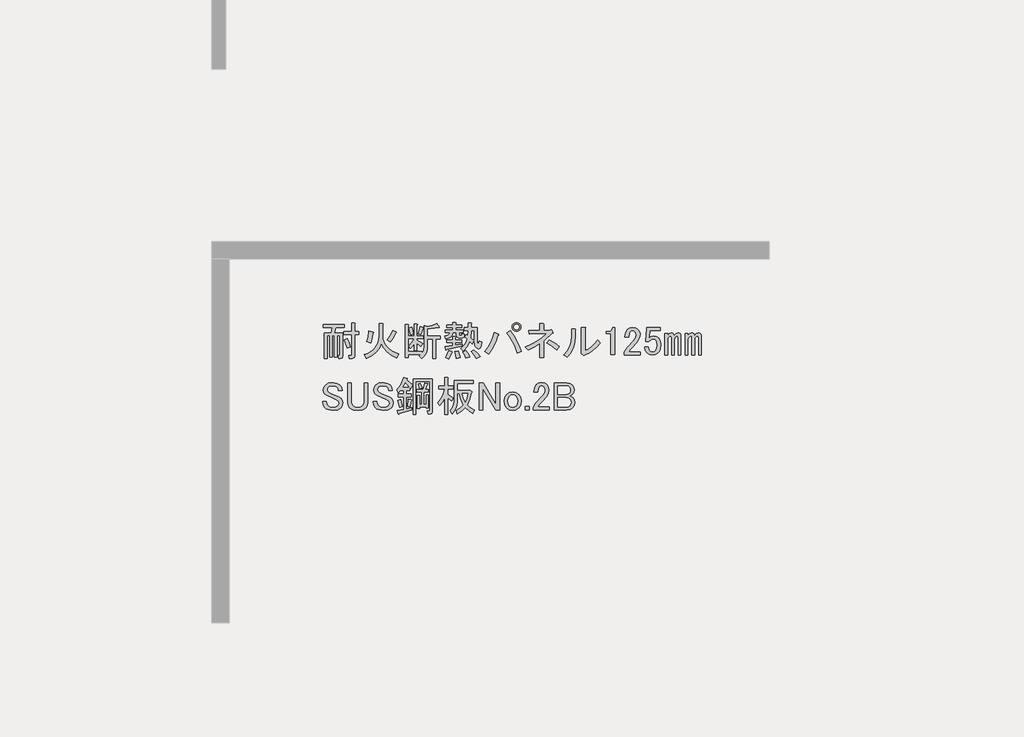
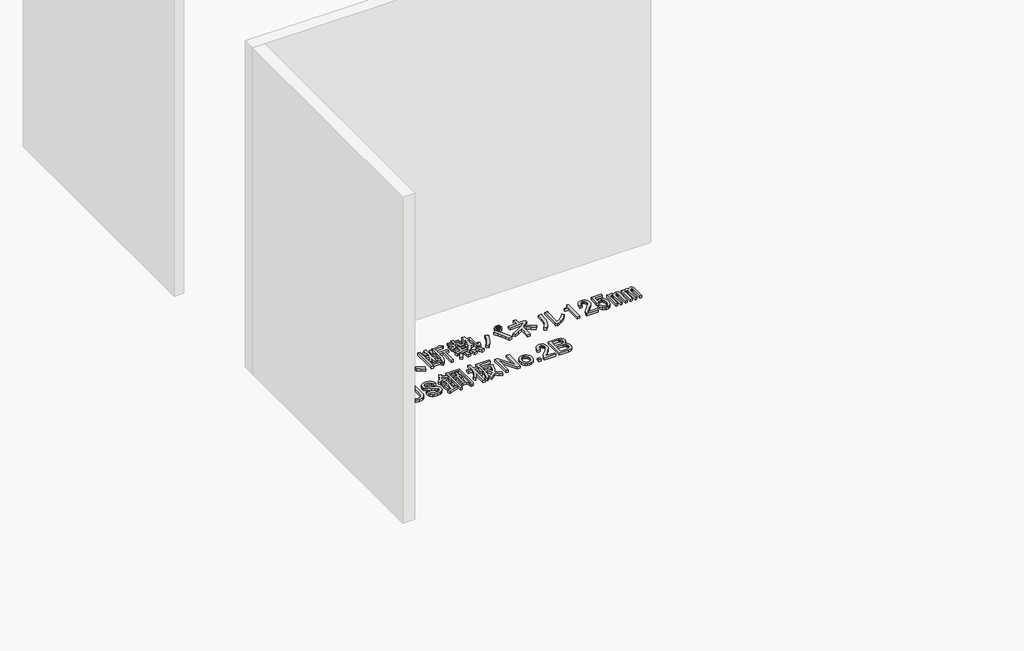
# One storey, part 113 of 117: 1 proxy.
"""IFC4 building model written with IfcOpenShell, lengths in millimetres."""

from ifc_helpers import new_model, si_unit, frame, origin, place, context, project, spatial, polyline, outline, extrude, element, save

model = new_model("IFC4")

# Units and contexts
model_context = context("Model", 3, world=origin())
ifc_project = project(units=[si_unit("LENGTHUNIT", "METRE", prefix="MILLI")], contexts=[model_context])

# Site, building, storey
site = spatial("IfcSite", under=ifc_project)
building = spatial("IfcBuilding", under=site)
storey = spatial("IfcBuildingStorey", under=building, Name="レベル 1", Elevation=500.0)

# Proxy
placement = place(None, origin())
element("IfcBuildingElementProxy", 1, Name="200㎜\u3000MS Pゴシック", ObjectType="200㎜\u3000MS Pゴシック", at=placement, inside=storey, context=model_context, shape_type="SweptSolid", body=[
    extrude(outline(polyline([(64978.5674486, 7229.3142262), (64971.0959694, 7259.7748726), (64960.176115, 7289.0860605), (64982.0158237, 7297.132269), (64994.372501, 7267.5337164), (65001.5566157, 7238.5098931), (64978.5674486, 7229.3142262)])), frame((0.0, 0.0, 500.0), z_axis=(0.0, 0.0, 1.0), x_axis=(1.0, 0.0, 0.0)), (0.0, 0.0, 1.0), 25.0),
    extrude(outline(polyline([(64887.7602388, 7320.121436), (64871.6678219, 7320.121436), (64871.6678219, 7164.9445585), (64852.1270299, 7164.9445585), (64852.1270299, 7320.121436), (64833.7356963, 7320.121436), (64833.7356963, 7152.3005167), (64814.1949043, 7152.3005167), (64814.1949043, 7338.5127697), (64865.9205301, 7338.5127697), (64871.6678219, 7377.5943537), (64804.9992375, 7377.5943537), (64804.9992375, 7399.4340623), (64960.176115, 7399.4340623), (64960.176115, 7377.5943537), (64895.8064473, 7377.5943537), (64885.4613221, 7338.5127697), (64946.3826148, 7338.5127697), (64946.3826148, 7170.6918503), (64942.3595106, 7158.6225376), (64930.2901979, 7154.5994334), (64919.9450727, 7154.5994334), (64915.3472393, 7176.439142), (64922.2439894, 7176.439142), (64925.6923645, 7177.5886004), (64926.8418228, 7181.0369755), (64926.8418228, 7320.121436), (64907.3010308, 7320.121436), (64907.3010308, 7164.9445585), (64887.7602388, 7164.9445585), (64887.7602388, 7320.121436)])), frame((0.0, 0.0, 500.0), z_axis=(0.0, 0.0, 1.0), x_axis=(1.0, 0.0, 0.0)), (0.0, 0.0, 1.0), 25.0),
    extrude(outline(polyline([(64956.72774, 7325.8687278), (64956.72774, 7347.7084365), (65013.0511992, 7347.7084365), (65013.0511992, 7409.7791875), (65034.8909079, 7409.7791875), (65039.7761059, 7407.4802708), (65036.0403663, 7402.8824374), (65036.0403663, 7347.7084365), (65064.7768251, 7347.7084365), (65064.7768251, 7325.8687278), (65036.0403663, 7325.8687278), (65036.0403663, 7172.990767), (65031.4425328, 7159.1972668), (65017.6490326, 7154.5994334), (64994.6598656, 7154.5994334), (64991.2114905, 7176.439142), (65008.4533658, 7176.439142), (65011.9017409, 7177.5886004), (65013.0511992, 7181.0369755), (65013.0511992, 7325.8687278), (64956.72774, 7325.8687278)])), frame((0.0, 0.0, 500.0), z_axis=(0.0, 0.0, 1.0), x_axis=(1.0, 0.0, 0.0)), (0.0, 0.0, 1.0), 25.0),
    extrude(outline(polyline([(65226.8504527, 7261.4990601), (65210.9017181, 7226.6561038), (65187.1941395, 7196.8420278), (65155.7277172, 7172.0568321), (65116.5024509, 7152.3005167), (65102.7089507, 7181.0369755), (65128.032955, 7190.71757), (65149.9804254, 7202.5174784), (65168.5513619, 7216.4367006), (65183.7457645, 7232.4752367), (65195.5636332, 7250.6330866), (65204.0049679, 7270.9102504), (65209.0697688, 7293.3067279), (65210.7580358, 7317.8225193), (65210.7580358, 7408.6297292), (65237.1955779, 7406.3308125), (65240.6439529, 7402.8824374), (65237.1955779, 7397.1351456), (65237.1955779, 7317.8225193), (65238.9916065, 7296.377937), (65244.3796926, 7276.2983364), (65253.3598359, 7257.5837176), (65265.9320367, 7240.2340806), (65282.0962947, 7224.2494254), (65301.8526102, 7209.629752), (65352.1414131, 7184.4853505), (65340.6468295, 7155.7488917), (65301.2060398, 7175.2896837), (65269.0930471, 7199.4283091), (65244.3078514, 7228.1647679), (65226.8504527, 7261.4990601)])), frame((0.0, 0.0, 500.0), z_axis=(0.0, 0.0, 1.0), x_axis=(1.0, 0.0, 0.0)), (0.0, 0.0, 1.0), 25.0),
    extrude(outline(polyline([(65330.3017044, 7337.3633113), (65310.1861832, 7297.9943628), (65293.5190371, 7271.8441853), (65270.5298701, 7286.7871438), (65290.3580266, 7318.3972485), (65308.4619957, 7358.0535617), (65333.7500794, 7345.4095198), (65336.3363607, 7341.6737801), (65330.3017044, 7337.3633113)])), frame((0.0, 0.0, 500.0), z_axis=(0.0, 0.0, 1.0), x_axis=(1.0, 0.0, 0.0)), (0.0, 0.0, 1.0), 25.0),
    extrude(outline(polyline([(65122.2497427, 7276.4420187), (65134.0316908, 7310.6384046), (65137.1927012, 7353.4557283), (65165.92916, 7346.5589781), (65170.5269934, 7342.8232385), (65165.92916, 7338.5127697), (65162.1934204, 7304.0290191), (65150.9862015, 7267.2463519), (65122.2497427, 7276.4420187)])), frame((0.0, 0.0, 500.0), z_axis=(0.0, 0.0, 1.0), x_axis=(1.0, 0.0, 0.0)), (0.0, 0.0, 1.0), 25.0),
    extrude(outline(polyline([(65647.5522095, 7381.0427287), (65645.828022, 7376.4448953), (65638.3565427, 7378.743812), (65561.3428331, 7366.0997701), (65561.3428331, 7316.673061), (65653.2995013, 7316.673061), (65653.2995013, 7294.8333523), (65622.2641258, 7294.8333523), (65622.2641258, 7154.5994334), (65599.2749588, 7154.5994334), (65599.2749588, 7294.8333523), (65561.3428331, 7294.8333523), (65561.3428331, 7245.4066432), (65558.7565518, 7217.6041193), (65550.997708, 7192.8189236), (65538.0663015, 7171.051056), (65519.9623325, 7152.3005167), (65502.7204572, 7171.8413086), (65513.0655823, 7181.0369755), (65423.4078309, 7181.0369755), (65423.4078309, 7159.1972668), (65400.4186638, 7159.1972668), (65400.4186638, 7398.284604), (65422.2583725, 7398.284604), (65427.1435705, 7395.9856873), (65423.4078309, 7391.3878539), (65423.4078309, 7315.5236026), (65465.9377899, 7315.5236026), (65465.9377899, 7402.8824374), (65484.3291235, 7402.8824374), (65489.2143215, 7400.5835207), (65485.4785819, 7395.9856873), (65485.4785819, 7315.5236026), (65529.1579993, 7315.5236026), (65529.1579993, 7297.132269), (65485.4785819, 7297.132269), (65485.4785819, 7287.9366022), (65525.7096242, 7261.4990601), (65511.916124, 7239.6593514), (65485.4785819, 7266.0968935), (65485.4785819, 7213.2218093), (65465.9377899, 7213.2218093), (65465.9377899, 7261.4990601), (65452.7190189, 7241.6709035), (65438.3507895, 7225.8658512), (65425.7067476, 7244.2571848), (65447.5464563, 7268.3958102), (65464.7883316, 7297.132269), (65423.4078309, 7297.132269), (65423.4078309, 7202.8766841), (65521.1117908, 7202.8766841), (65521.1117908, 7189.0831839), (65534.0431973, 7213.2218093), (65538.3536661, 7246.5561015), (65538.3536661, 7391.3878539), (65560.1933748, 7385.6405621), (65596.4013129, 7393.1120414), (65626.8619592, 7406.3308125), (65647.5522095, 7381.0427287)])), frame((0.0, 0.0, 500.0), z_axis=(0.0, 0.0, 1.0), x_axis=(1.0, 0.0, 0.0)), (0.0, 0.0, 1.0), 25.0),
    extrude(outline(polyline([(65493.5247904, 7332.7654779), (65510.7666656, 7385.6405621), (65531.456916, 7379.8932704), (65533.1811035, 7376.7322599), (65529.1579993, 7374.1459786), (65511.916124, 7325.8687278), (65493.5247904, 7332.7654779)])), frame((0.0, 0.0, 500.0), z_axis=(0.0, 0.0, 1.0), x_axis=(1.0, 0.0, 0.0)), (0.0, 0.0, 1.0), 25.0),
    extrude(outline(polyline([(65439.5002478, 7324.7192695), (65426.8562059, 7375.2954369), (65446.3969979, 7382.1921871), (65454.1558418, 7358.0535617), (65459.0410398, 7331.6160196), (65439.5002478, 7324.7192695)])), frame((0.0, 0.0, 500.0), z_axis=(0.0, 0.0, 1.0), x_axis=(1.0, 0.0, 0.0)), (0.0, 0.0, 1.0), 25.0),
    extrude(outline(polyline([(65770.5442532, 7340.8116864), (65745.2561695, 7340.8116864), (65740.6583361, 7323.3542877), (65730.3132109, 7310.0636755), (65714.220794, 7300.9398498), (65692.3810853, 7295.9828107), (65687.7832519, 7315.5236026), (65713.0713356, 7324.1445403), (65720.5428149, 7331.4723373), (65724.5659191, 7340.8116864), (65688.9327102, 7340.8116864), (65688.9327102, 7359.20302), (65742.9572528, 7359.20302), (65742.9572528, 7376.4448953), (65699.2778354, 7376.4448953), (65699.2778354, 7394.8362289), (65742.9572528, 7394.8362289), (65742.9572528, 7413.2275626), (65764.7969614, 7413.2275626), (65769.6821594, 7410.9286459), (65765.9464198, 7406.3308125), (65765.9464198, 7394.8362289), (65808.4763788, 7394.8362289), (65808.4763788, 7376.4448953), (65765.9464198, 7376.4448953), (65765.9464198, 7359.20302), (65818.821504, 7359.20302), (65818.821504, 7340.8116864), (65790.0850452, 7340.8116864), (65790.0850452, 7328.1676445), (65791.5218681, 7322.9950819), (65795.832337, 7321.2708944), (65806.1774621, 7321.2708944), (65809.9132018, 7324.4319049), (65809.6258372, 7333.9149363), (65829.1666292, 7331.6160196), (65826.2929833, 7310.0636755), (65820.9767384, 7304.6755894), (65813.0742122, 7302.8795608), (65788.9355868, 7302.8795608), (65775.1420866, 7307.7647588), (65770.5442532, 7322.4203528), (65770.5442532, 7340.8116864)])), frame((0.0, 0.0, 500.0), z_axis=(0.0, 0.0, 1.0), x_axis=(1.0, 0.0, 0.0)), (0.0, 0.0, 1.0), 25.0),
    extrude(outline(polyline([(65901.5825053, 7358.0535617), (65879.7427966, 7358.0535617), (65875.1449632, 7300.5806441), (65894.6857552, 7282.1893104), (65884.3406301, 7260.3496017), (65868.2482131, 7276.4420187), (65848.9947857, 7238.7972576), (65818.821504, 7206.3250592), (65801.5796287, 7227.0153095), (65816.6662696, 7238.9409399), (65829.7413583, 7254.0275808), (65840.804895, 7272.2752321), (65849.8568795, 7293.683894), (65832.6150042, 7308.6268525), (65840.6612127, 7325.8687278), (65854.4547129, 7315.5236026), (65856.7536296, 7358.0535617), (65829.1666292, 7358.0535617), (65829.1666292, 7376.4448953), (65856.7536296, 7376.4448953), (65856.7536296, 7410.9286459), (65878.5933383, 7410.9286459), (65883.4785363, 7408.6297292), (65879.7427966, 7404.0318957), (65879.7427966, 7376.4448953), (65921.1232973, 7376.4448953), (65921.1232973, 7279.8903937), (65924.5716724, 7255.7517683), (65927.804524, 7253.7402162), (65930.6063287, 7256.9012267), (65934.9167975, 7278.7409354), (65954.4575895, 7271.8441853), (65949.9315973, 7245.0474374), (65942.1009122, 7229.0268616), (65930.9655345, 7223.7824579), (65916.5254639, 7229.3142262), (65909.9879195, 7236.6420232), (65905.318245, 7248.280289), (65901.5825053, 7284.4882271), (65901.5825053, 7358.0535617)])), frame((0.0, 0.0, 500.0), z_axis=(0.0, 0.0, 1.0), x_axis=(1.0, 0.0, 0.0)), (0.0, 0.0, 1.0), 25.0),
    extrude(outline(polyline([(65700.4272937, 7218.9691011), (65698.4157416, 7214.0839031), (65694.680002, 7215.520726), (65688.9327102, 7239.6593514), (65744.1067111, 7247.7055599), (65744.1067111, 7270.6947269), (65700.4272937, 7270.6947269), (65700.4272937, 7289.0860605), (65744.1067111, 7289.0860605), (65744.1067111, 7312.0752276), (65762.4980447, 7312.0752276), (65767.3832427, 7309.7763109), (65763.6475031, 7305.1784775), (65763.6475031, 7289.0860605), (65808.4763788, 7289.0860605), (65808.4763788, 7270.6947269), (65763.6475031, 7270.6947269), (65763.6475031, 7251.1539349), (65814.2236706, 7260.3496017), (65814.2236706, 7244.2571848), (65700.4272937, 7218.9691011)])), frame((0.0, 0.0, 500.0), z_axis=(0.0, 0.0, 1.0), x_axis=(1.0, 0.0, 0.0)), (0.0, 0.0, 1.0), 25.0),
    extrude(outline(polyline([(65898.1341303, 7214.3712677), (65922.8474849, 7193.1062881), (65941.8135477, 7168.3929336), (65915.3760056, 7153.449975), (65896.1225782, 7183.0485276), (65877.4438799, 7202.8766841), (65898.1341303, 7214.3712677)])), frame((0.0, 0.0, 500.0), z_axis=(0.0, 0.0, 1.0), x_axis=(1.0, 0.0, 0.0)), (0.0, 0.0, 1.0), 25.0),
    extrude(outline(polyline([(65839.5117543, 7155.7488917), (65831.1781813, 7180.4622463), (65817.6720456, 7201.7272258), (65838.362296, 7209.7734343), (65855.3168067, 7188.2210902), (65867.0987548, 7164.9445585), (65839.5117543, 7155.7488917)])), frame((0.0, 0.0, 500.0), z_axis=(0.0, 0.0, 1.0), x_axis=(1.0, 0.0, 0.0)), (0.0, 0.0, 1.0), 25.0),
    extrude(outline(polyline([(65738.3594193, 7204.0261425), (65741.8077944, 7199.1409445), (65736.0605026, 7195.979934), (65726.2901067, 7170.4044857), (65715.3702523, 7151.1510583), (65692.3810853, 7162.6456418), (65705.0251271, 7186.209538), (65715.3702523, 7213.2218093), (65738.3594193, 7204.0261425)])), frame((0.0, 0.0, 500.0), z_axis=(0.0, 0.0, 1.0), x_axis=(1.0, 0.0, 0.0)), (0.0, 0.0, 1.0), 25.0),
    extrude(outline(polyline([(65783.1882951, 7208.6239759), (65793.2460557, 7181.32434), (65798.1312537, 7159.1972668), (65769.3947949, 7153.449975), (65766.8085136, 7175.0023191), (65759.0496697, 7205.1756008), (65783.1882951, 7208.6239759)])), frame((0.0, 0.0, 500.0), z_axis=(0.0, 0.0, 1.0), x_axis=(1.0, 0.0, 0.0)), (0.0, 0.0, 1.0), 25.0),
    extrude(outline(polyline([(66206.1889686, 7350.0073532), (66193.5449268, 7352.3062699), (66183.1998016, 7359.20302), (66176.3030515, 7369.5481452), (66174.0041348, 7382.1921871), (66176.3030515, 7394.8362289), (66183.1998016, 7405.1813541), (66193.5449268, 7412.0781042), (66206.1889686, 7414.3770209), (66218.8330105, 7412.0781042), (66229.1781357, 7405.1813541), (66236.0748858, 7394.8362289), (66238.3738025, 7382.1921871), (66236.0748858, 7369.5481452), (66229.1781357, 7359.20302), (66218.8330105, 7352.3062699), (66206.1889686, 7350.0073532)]), holes=[polyline([(66206.1889686, 7361.5019367), (66214.5225417, 7362.9387597), (66221.1319272, 7367.2492285), (66225.442396, 7373.858614), (66226.879219, 7382.1921871), (66225.442396, 7390.5257601), (66221.1319272, 7397.1351456), (66214.5225417, 7401.4456145), (66206.1889686, 7402.8824374), (66197.8553956, 7401.4456145), (66191.2460101, 7397.1351456), (66186.9355412, 7390.5257601), (66185.4987183, 7382.1921871), (66186.9355412, 7373.858614), (66191.2460101, 7367.2492285), (66197.8553956, 7362.9387597), (66206.1889686, 7361.5019367)])]), frame((0.0, 0.0, 500.0), z_axis=(0.0, 0.0, 1.0), x_axis=(1.0, 0.0, 0.0)), (0.0, 0.0, 1.0), 25.0),
    extrude(outline(polyline([(66160.2106345, 7355.754645), (66186.8637001, 7319.0438188), (66209.3499791, 7281.3272167), (66227.6694716, 7242.6048384), (66241.8221775, 7202.8766841), (66210.786802, 7192.531559), (66195.3409554, 7235.6362472), (66177.7398744, 7274.143102), (66157.983559, 7308.0521234), (66136.0720092, 7337.3633113), (66160.2106345, 7355.754645)])), frame((0.0, 0.0, 500.0), z_axis=(0.0, 0.0, 1.0), x_axis=(1.0, 0.0, 0.0)), (0.0, 0.0, 1.0), 25.0),
    extrude(outline(polyline([(66072.8517998, 7329.3171029), (66076.874904, 7323.8571757), (66070.5528831, 7318.9719777), (66058.6272527, 7283.5542922), (66043.5406118, 7249.717112), (66025.2929605, 7217.460437), (66003.8842987, 7186.7842672), (65977.4467566, 7204.0261425), (66000.6514471, 7235.4925649), (66019.689351, 7268.9705394), (66034.5604684, 7304.460066), (66045.2647993, 7341.9611447), (66072.8517998, 7329.3171029)])), frame((0.0, 0.0, 500.0), z_axis=(0.0, 0.0, 1.0), x_axis=(1.0, 0.0, 0.0)), (0.0, 0.0, 1.0), 25.0),
    extrude(outline(polyline([(66449.8741393, 7360.3524784), (66456.7708894, 7362.6513951), (66469.4149312, 7345.4095198), (66470.5643896, 7339.3748634), (66464.8170978, 7337.3633113), (66401.5968885, 7281.0398521), (66401.5968885, 7160.3467251), (66375.1593464, 7160.3467251), (66375.1593464, 7262.6485184), (66334.9283041, 7238.5098931), (66290.0994283, 7216.6701844), (66270.5586363, 7237.3604347), (66316.1059235, 7256.8293855), (66357.3427419, 7279.6030291), (66394.2690915, 7305.6813655), (66426.8849722, 7335.0643946), (66296.9961784, 7329.3171029), (66293.5478034, 7354.6051866), (66375.1593464, 7356.9041033), (66375.1593464, 7408.6297292), (66398.1485134, 7408.6297292), (66404.1831698, 7405.1813541), (66401.5968885, 7399.4340623), (66401.5968885, 7358.0535617), (66449.8741393, 7360.3524784)])), frame((0.0, 0.0, 500.0), z_axis=(0.0, 0.0, 1.0), x_axis=(1.0, 0.0, 0.0)), (0.0, 0.0, 1.0), 25.0),
    extrude(outline(polyline([(66495.8524733, 7216.6701844), (66458.7824415, 7245.9813723), (66425.7355139, 7267.2463519), (66442.9773892, 7289.0860605), (66481.7716085, 7265.8095289), (66515.3932653, 7239.6593514), (66495.8524733, 7216.6701844)])), frame((0.0, 0.0, 500.0), z_axis=(0.0, 0.0, 1.0), x_axis=(1.0, 0.0, 0.0)), (0.0, 0.0, 1.0), 25.0),
    extrude(outline(polyline([(66702.8469334, 7209.7734343), (66727.6321291, 7221.9864292), (66751.4115488, 7239.0846222), (66774.1851924, 7261.0680132), (66795.9530599, 7287.9366022), (66812.0454768, 7266.0968935), (66788.7689452, 7238.2943696), (66762.6187677, 7214.6586322), (66733.5949443, 7195.1896814), (66701.697475, 7179.8875171), (66692.5018082, 7175.2896837), (66674.1104746, 7189.0831839), (66676.4093913, 7194.8304757), (66676.4093913, 7379.8932704), (66700.5480167, 7379.8932704), (66706.2953084, 7376.4448953), (66702.8469334, 7370.6976035), (66702.8469334, 7209.7734343)])), frame((0.0, 0.0, 500.0), z_axis=(0.0, 0.0, 1.0), x_axis=(1.0, 0.0, 0.0)), (0.0, 0.0, 1.0), 25.0),
    extrude(outline(polyline([(66548.8195142, 7178.7380587), (66573.9639157, 7207.9774056), (66591.9242024, 7240.5214452), (66602.7003745, 7276.3701775), (66606.2924318, 7315.5236026), (66606.2924318, 7367.2492285), (66630.4310572, 7367.2492285), (66636.178349, 7363.8008534), (66632.7299739, 7358.0535617), (66632.7299739, 7316.673061), (66628.9223931, 7270.9102504), (66617.4996507, 7230.17632), (66598.4617468, 7194.4712699), (66571.8086812, 7163.7951002), (66548.8195142, 7178.7380587)])), frame((0.0, 0.0, 500.0), z_axis=(0.0, 0.0, 1.0), x_axis=(1.0, 0.0, 0.0)), (0.0, 0.0, 1.0), 25.0),
    extrude(outline(polyline([(66891.3581031, 7356.9041033), (66899.4043116, 7367.8239577), (66902.8526866, 7379.8932704), (66916.6461869, 7379.8932704), (66916.6461869, 7181.0369755), (66890.2086448, 7181.0369755), (66890.2086448, 7333.9149363), (66855.7248942, 7333.9149363), (66855.7248942, 7347.7084365), (66866.0700194, 7347.7084365), (66880.4382488, 7350.0073532), (66891.3581031, 7356.9041033)])), frame((0.0, 0.0, 500.0), z_axis=(0.0, 0.0, 1.0), x_axis=(1.0, 0.0, 0.0)), (0.0, 0.0, 1.0), 25.0),
    extrude(outline(polyline([(66991.3609797, 7309.7763109), (66995.9588132, 7341.099051), (67009.7523134, 7363.8008534), (67026.1320949, 7375.0080724), (67045.3855223, 7378.743812), (67068.0873247, 7375.0080724), (67085.6165646, 7363.8008534), (67096.8237835, 7347.1337073), (67100.5595232, 7327.0181862), (67096.2490544, 7301.1553732), (67083.3176479, 7278.7409354), (67049.9833557, 7240.8088098), (67031.5920221, 7220.1185594), (67017.7985218, 7201.7272258), (67104.0078982, 7201.7272258), (67104.0078982, 7179.8875171), (66986.7631463, 7179.8875171), (66986.7631463, 7199.4283091), (66992.7978027, 7213.2218093), (67006.3039383, 7231.6131429), (67053.4317308, 7283.3387688), (67068.0873247, 7304.6037483), (67072.9725227, 7327.0181862), (67070.673606, 7339.662228), (67063.7768559, 7350.0073532), (67056.018012, 7355.1799158), (67046.5349806, 7356.9041033), (67037.914043, 7355.1799158), (67030.4425637, 7350.0073532), (67020.9595323, 7333.6275717), (67017.7985218, 7309.7763109), (66991.3609797, 7309.7763109)])), frame((0.0, 0.0, 500.0), z_axis=(0.0, 0.0, 1.0), x_axis=(1.0, 0.0, 0.0)), (0.0, 0.0, 1.0), 25.0),
    extrude(outline(polyline([(67147.6873156, 7376.4448953), (67246.5407339, 7376.4448953), (67246.5407339, 7354.6051866), (67169.5270243, 7354.6051866), (67169.5270243, 7351.1568116), (67166.0786493, 7308.6268525), (67164.9291909, 7301.7301024), (67180.4468787, 7312.0752276), (67197.1140248, 7315.5236026), (67218.0916397, 7311.787863), (67235.0461504, 7300.5806441), (67247.1154631, 7280.7524875), (67251.1385673, 7253.4528516), (67245.9660047, 7218.9691011), (67239.5003015, 7205.1756008), (67230.448317, 7193.6810173), (67212.3443479, 7181.6117046), (67190.2172746, 7177.5886004), (67169.2396597, 7181.32434), (67152.285149, 7192.531559), (67140.2158363, 7211.2102572), (67133.8938154, 7237.3604347), (67160.3313575, 7237.3604347), (67164.3544617, 7218.6817365), (67171.825941, 7206.3250592), (67179.5847849, 7201.1524966), (67189.0678163, 7199.4283091), (67201.4244936, 7201.4398612), (67210.907525, 7207.4745175), (67220.3905564, 7224.4290282), (67223.5515669, 7250.0044766), (67220.9652856, 7274.143102), (67213.2064417, 7289.0860605), (67205.7349624, 7294.2586231), (67197.1140248, 7295.9828107), (67184.1826183, 7293.3965294), (67172.9753994, 7285.6376855), (67163.7797326, 7275.2925603), (67140.7905655, 7275.2925603), (67141.9400239, 7283.3387688), (67147.6873156, 7371.8470619), (67147.6873156, 7376.4448953)])), frame((0.0, 0.0, 500.0), z_axis=(0.0, 0.0, 1.0), x_axis=(1.0, 0.0, 0.0)), (0.0, 0.0, 1.0), 25.0),
    extrude(outline(polyline([(67522.4107384, 7339.662228), (67530.7443114, 7338.2254051), (67537.353697, 7333.9149363), (67542.5262595, 7325.2939986), (67544.2504471, 7313.2246859), (67544.2504471, 7178.7380587), (67524.7096551, 7178.7380587), (67524.7096551, 7302.8795608), (67522.1233738, 7312.3625922), (67514.3645299, 7315.5236026), (67504.0194048, 7310.9257692), (67497.9847484, 7302.3048316), (67495.9731963, 7292.5344356), (67495.9731963, 7178.7380587), (67476.4324043, 7178.7380587), (67476.4324043, 7302.8795608), (67473.846123, 7312.3625922), (67466.0872791, 7315.5236026), (67455.742154, 7310.9257692), (67449.7074976, 7302.3048316), (67447.6959455, 7292.5344356), (67447.6959455, 7178.7380587), (67428.1551535, 7178.7380587), (67428.1551535, 7336.213853), (67447.6959455, 7336.213853), (67447.6959455, 7318.9719777), (67459.7652582, 7334.4896654), (67472.9840292, 7339.662228), (67482.1796961, 7338.2254051), (67489.0764462, 7333.9149363), (67495.9731963, 7320.121436), (67508.9046028, 7334.77703), (67522.4107384, 7339.662228)])), frame((0.0, 0.0, 500.0), z_axis=(0.0, 0.0, 1.0), x_axis=(1.0, 0.0, 0.0)), (0.0, 0.0, 1.0), 25.0),
    extrude(outline(polyline([(67300.5652764, 7178.7380587), (67281.0244845, 7178.7380587), (67281.0244845, 7336.213853), (67300.5652764, 7336.213853), (67300.5652764, 7318.9719777), (67312.6345891, 7334.4896654), (67325.8533602, 7339.662228), (67335.049027, 7338.2254051), (67341.9457771, 7333.9149363), (67348.8425272, 7320.121436), (67361.7739337, 7334.77703), (67375.2800693, 7339.662228), (67383.6136424, 7338.2254051), (67390.2230279, 7333.9149363), (67395.3955905, 7325.2939986), (67397.119778, 7313.2246859), (67397.119778, 7178.7380587), (67377.578986, 7178.7380587), (67377.578986, 7302.8795608), (67374.9927047, 7312.3625922), (67367.2338609, 7315.5236026), (67356.8887357, 7310.9257692), (67350.8540793, 7302.3048316), (67348.8425272, 7292.5344356), (67348.8425272, 7178.7380587), (67329.3017352, 7178.7380587), (67329.3017352, 7302.8795608), (67326.715454, 7312.3625922), (67318.9566101, 7315.5236026), (67308.6114849, 7310.9257692), (67302.5768286, 7302.3048316), (67300.5652764, 7292.5344356), (67300.5652764, 7178.7380587)])), frame((0.0, 0.0, 500.0), z_axis=(0.0, 0.0, 1.0), x_axis=(1.0, 0.0, 0.0)), (0.0, 0.0, 1.0), 25.0),
    extrude(outline(polyline([(64807.2981542, 6924.7192695), (64811.3212584, 6945.1221552), (64823.3905711, 6962.6513951), (64843.7934569, 6974.7207078), (64872.8172803, 6978.743812), (64904.1400204, 6974.1459786), (64926.8418228, 6960.3524784), (64938.9111355, 6942.8232385), (64942.9342397, 6922.4203528), (64916.4966976, 6922.4203528), (64914.1977809, 6935.0643946), (64907.3010308, 6945.4095198), (64894.0822598, 6953.1683637), (64875.116197, 6955.754645), (64854.7133112, 6953.4557283), (64841.7819048, 6946.5589781), (64835.7472484, 6937.9380405), (64833.7356963, 6928.1676445), (64838.3335297, 6913.2246859), (64859.02378, 6901.7301024), (64918.7956143, 6875.2925603), (64936.0374896, 6863.7979768), (64945.520521, 6850.0044766), (64948.6815315, 6833.9120596), (64944.6584273, 6812.6470801), (64932.5891146, 6794.8304757), (64922.6031951, 6787.2871552), (64909.8873121, 6781.8990692), (64876.2656553, 6777.5886004), (64842.6439985, 6782.761163), (64829.0660217, 6789.2268662), (64817.6432794, 6798.2788507), (64806.4360604, 6816.6701844), (64802.7003208, 6841.9582681), (64829.1378629, 6841.9582681), (64831.4367796, 6824.1416637), (64838.3335297, 6812.072351), (64854.4259466, 6802.5893196), (64877.4151137, 6799.4283091), (64898.3927286, 6802.301955), (64913.0483226, 6810.9228926), (64919.9450727, 6820.1185594), (64922.2439894, 6829.3142262), (64920.5198019, 6838.7972576), (64915.3472393, 6846.5561015), (64896.9559057, 6858.050685), (64867.0699885, 6871.8441853), (64833.7356963, 6886.7871438), (64817.6432794, 6897.132269), (64809.8844355, 6909.2015817), (64807.2981542, 6924.7192695)])), frame((0.0, 0.0, 500.0), z_axis=(0.0, 0.0, 1.0), x_axis=(1.0, 0.0, 0.0)), (0.0, 0.0, 1.0), 25.0),
    extrude(outline(polyline([(64982.7054987, 6976.4448953), (65009.1430408, 6976.4448953), (65009.1430408, 6838.5098931), (65011.7293221, 6823.8542991), (65019.488166, 6812.072351), (65035.0058537, 6802.5893196), (65056.2708332, 6799.4283091), (65077.5358128, 6802.5893196), (65093.0535005, 6812.072351), (65100.8123444, 6823.8542991), (65103.3986257, 6838.5098931), (65103.3986257, 6976.4448953), (65129.8361678, 6976.4448953), (65129.8361678, 6837.3604347), (65125.8130635, 6814.3712677), (65113.7437508, 6795.979934), (65103.2549434, 6787.9337256), (65090.1798546, 6782.1864338), (65056.2708332, 6777.5886004), (65022.3618119, 6782.1864338), (65009.2867231, 6787.9337256), (64998.7979156, 6795.979934), (64986.7286029, 6814.3712677), (64982.7054987, 6837.3604347), (64982.7054987, 6976.4448953)])), frame((0.0, 0.0, 500.0), z_axis=(0.0, 0.0, 1.0), x_axis=(1.0, 0.0, 0.0)), (0.0, 0.0, 1.0), 25.0),
    extrude(outline(polyline([(65172.1822135, 6924.7192695), (65176.2053177, 6945.1221552), (65188.2746304, 6962.6513951), (65208.6775161, 6974.7207078), (65237.7013395, 6978.743812), (65269.0240796, 6974.1459786), (65291.7258821, 6960.3524784), (65303.7951948, 6942.8232385), (65307.818299, 6922.4203528), (65281.3807569, 6922.4203528), (65279.0818402, 6935.0643946), (65272.1850901, 6945.4095198), (65258.966319, 6953.1683637), (65240.0002562, 6955.754645), (65219.5973705, 6953.4557283), (65206.665964, 6946.5589781), (65200.6313077, 6937.9380405), (65198.6197556, 6928.1676445), (65203.217589, 6913.2246859), (65223.9078393, 6901.7301024), (65283.6796736, 6875.2925603), (65300.9215489, 6863.7979768), (65310.4045803, 6850.0044766), (65313.5655908, 6833.9120596), (65309.5424865, 6812.6470801), (65297.4731738, 6794.8304757), (65287.4872544, 6787.2871552), (65274.7713714, 6781.8990692), (65241.1497146, 6777.5886004), (65207.5280578, 6782.761163), (65193.950081, 6789.2268662), (65182.5273386, 6798.2788507), (65171.3201197, 6816.6701844), (65167.5843801, 6841.9582681), (65194.0219222, 6841.9582681), (65196.3208389, 6824.1416637), (65203.217589, 6812.072351), (65219.3100059, 6802.5893196), (65242.2991729, 6799.4283091), (65263.2767879, 6802.301955), (65277.9323819, 6810.9228926), (65284.829132, 6820.1185594), (65287.1280487, 6829.3142262), (65285.4038611, 6838.7972576), (65280.2312986, 6846.5561015), (65261.8399649, 6858.050685), (65231.9540478, 6871.8441853), (65198.6197556, 6886.7871438), (65182.5273386, 6897.132269), (65174.7684948, 6909.2015817), (65172.1822135, 6924.7192695)])), frame((0.0, 0.0, 500.0), z_axis=(0.0, 0.0, 1.0), x_axis=(1.0, 0.0, 0.0)), (0.0, 0.0, 1.0), 25.0),
    extrude(outline(polyline([(65441.8451429, 6937.3633113), (65400.4646422, 6981.0427287), (65378.6249335, 6941.9611447), (65433.7989344, 6941.9611447), (65433.7989344, 6923.5698111), (65407.3613923, 6923.5698111), (65407.3613923, 6894.8333523), (65445.2935179, 6894.8333523), (65445.2935179, 6876.4420187), (65407.3613923, 6876.4420187), (65407.3613923, 6789.0831839), (65446.4429763, 6799.4283091), (65448.741893, 6779.8875171), (65356.7852248, 6754.5994334), (65354.4863081, 6748.8521416), (65349.8884747, 6752.3005167), (65342.9917246, 6775.2896837), (65387.8206003, 6784.4853505), (65387.8206003, 6876.4420187), (65349.8884747, 6876.4420187), (65349.8884747, 6894.8333523), (65387.8206003, 6894.8333523), (65387.8206003, 6923.5698111), (65365.9808916, 6923.5698111), (65351.037933, 6905.1784775), (65338.3938912, 6925.8687278), (65366.5556208, 6963.5134888), (65391.2689754, 7014.3770209), (65413.1086841, 7008.6297292), (65416.5570591, 7004.8939895), (65410.8097674, 7002.8824374), (65409.660309, 6999.4340623), (65454.4891847, 6961.5019367), (65441.8451429, 6937.3633113)])), frame((0.0, 0.0, 500.0), z_axis=(0.0, 0.0, 1.0), x_axis=(1.0, 0.0, 0.0)), (0.0, 0.0, 1.0), 25.0),
    extrude(outline(polyline([(65509.6631856, 6974.1459786), (65516.8473003, 6958.9156554), (65522.3072275, 6938.5127697), (65505.0653522, 6932.7654779), (65493.5707687, 6969.5481452), (65509.6631856, 6974.1459786)])), frame((0.0, 0.0, 500.0), z_axis=(0.0, 0.0, 1.0), x_axis=(1.0, 0.0, 0.0)), (0.0, 0.0, 1.0), 25.0),
    extrude(outline(polyline([(65562.5382698, 6972.9965202), (65565.1245511, 6969.5481452), (65559.0898948, 6966.0997701), (65546.4458529, 6928.1676445), (65567.1361032, 6928.1676445), (65567.1361032, 6909.7763109), (65536.1007277, 6909.7763109), (65536.1007277, 6821.2680178), (65551.0436863, 6821.2680178), (65551.0436863, 6889.0860605), (65567.1361032, 6889.0860605), (65567.1361032, 6794.8304757), (65551.0436863, 6794.8304757), (65551.0436863, 6802.8766841), (65505.0653522, 6802.8766841), (65505.0653522, 6790.2326423), (65488.9729353, 6790.2326423), (65488.9729353, 6886.7871438), (65505.0653522, 6886.7871438), (65505.0653522, 6821.2680178), (65520.0083108, 6821.2680178), (65520.0083108, 6909.7763109), (65484.3751019, 6909.7763109), (65484.3751019, 6928.1676445), (65530.353436, 6928.1676445), (65540.6985611, 6977.5943537), (65562.5382698, 6972.9965202)])), frame((0.0, 0.0, 500.0), z_axis=(0.0, 0.0, 1.0), x_axis=(1.0, 0.0, 0.0)), (0.0, 0.0, 1.0), 25.0),
    extrude(outline(polyline([(65456.7881014, 7006.3308125), (65597.0220204, 7006.3308125), (65597.0220204, 6766.0940169), (65593.2862807, 6754.8867979), (65582.0790618, 6751.1510583), (65565.9866449, 6751.1510583), (65561.3888115, 6772.990767), (65572.883395, 6772.990767), (65576.33177, 6774.1402253), (65577.4812284, 6777.5886004), (65577.4812284, 6987.9394788), (65476.3288934, 6987.9394788), (65476.3288934, 6748.8521416), (65456.7881014, 6748.8521416), (65456.7881014, 7006.3308125)])), frame((0.0, 0.0, 500.0), z_axis=(0.0, 0.0, 1.0), x_axis=(1.0, 0.0, 0.0)), (0.0, 0.0, 1.0), 25.0),
    extrude(outline(polyline([(65445.2935179, 6858.050685), (65447.8797992, 6854.8896746), (65444.1440596, 6852.3033933), (65436.0978511, 6805.1756008), (65417.7065175, 6807.4745175), (65423.4538092, 6861.4990601), (65445.2935179, 6858.050685)])), frame((0.0, 0.0, 500.0), z_axis=(0.0, 0.0, 1.0), x_axis=(1.0, 0.0, 0.0)), (0.0, 0.0, 1.0), 25.0),
    extrude(outline(polyline([(65368.2798083, 6856.9012267), (65379.7743918, 6805.1756008), (65359.0841415, 6799.4283091), (65347.589558, 6851.1539349), (65368.2798083, 6856.9012267)])), frame((0.0, 0.0, 500.0), z_axis=(0.0, 0.0, 1.0), x_axis=(1.0, 0.0, 0.0)), (0.0, 0.0, 1.0), 25.0),
    extrude(outline(polyline([(65768.2913148, 6777.5886004), (65797.0277736, 6794.8304757), (65818.8674823, 6816.6701844), (65801.0508779, 6858.6254142), (65791.2804819, 6899.4311857), (65778.63644, 6899.4311857), (65778.63644, 6875.2925603), (65776.193841, 6833.5528539), (65768.866044, 6799.1409445), (65756.653049, 6772.0568321), (65739.554856, 6752.3005167), (65725.7613558, 6775.2896837), (65738.8364446, 6792.6752413), (65748.1757937, 6814.9459968), (65753.7794031, 6842.1019504), (65755.647273, 6874.143102), (65755.647273, 6994.8362289), (65892.4328169, 6994.8362289), (65892.4328169, 6972.9965202), (65778.63644, 6972.9965202), (65778.63644, 6921.2708944), (65857.9490663, 6921.2708944), (65863.6963581, 6927.0181862), (65883.23715, 6913.2246859), (65884.673973, 6909.4889463), (65879.788775, 6905.1784775), (65867.4320977, 6858.6254142), (65848.7533995, 6817.8196427), (65867.7194623, 6799.4283091), (65899.329567, 6781.0369755), (65890.1339002, 6756.8983501), (65862.2595351, 6772.990767), (65833.8104409, 6798.2788507), (65809.3844509, 6773.8528608), (65777.4869817, 6753.449975), (65768.2913148, 6777.5886004)]), holes=[polyline([(65813.1201906, 6899.4311857), (65821.166399, 6866.3842581), (65833.8104409, 6838.5098931), (65846.4544828, 6864.6600706), (65854.5006912, 6899.4311857), (65813.1201906, 6899.4311857)])]), frame((0.0, 0.0, 500.0), z_axis=(0.0, 0.0, 1.0), x_axis=(1.0, 0.0, 0.0)), (0.0, 0.0, 1.0), 25.0),
    extrude(outline(polyline([(65685.5303135, 6748.8521416), (65685.5303135, 6868.3958102), (65667.713709, 6834.1994242), (65648.7476462, 6812.072351), (65637.2530627, 6832.7626013), (65654.494938, 6855.4644037), (65668.2884382, 6879.8903937), (65678.6335634, 6906.0405712), (65685.5303135, 6933.9149363), (65644.1498128, 6933.9149363), (65644.1498128, 6955.754645), (65685.5303135, 6955.754645), (65685.5303135, 7015.5264793), (65707.3700222, 7015.5264793), (65712.2552202, 7013.2275626), (65708.5194805, 7008.6297292), (65708.5194805, 6955.754645), (65746.4516061, 6955.754645), (65746.4516061, 6933.9149363), (65708.5194805, 6933.9149363), (65708.5194805, 6893.683894), (65746.4516061, 6867.2463519), (65736.106481, 6844.2571848), (65708.5194805, 6867.2463519), (65708.5194805, 6748.8521416), (65685.5303135, 6748.8521416)])), frame((0.0, 0.0, 500.0), z_axis=(0.0, 0.0, 1.0), x_axis=(1.0, 0.0, 0.0)), (0.0, 0.0, 1.0), 25.0),
    extrude(outline(polyline([(65936.1122342, 6976.4448953), (65964.848693, 6976.4448953), (66056.8053612, 6821.2680178), (66056.8053612, 6976.4448953), (66083.2429033, 6976.4448953), (66083.2429033, 6779.8875171), (66054.5064445, 6779.8875171), (65962.5497763, 6935.0643946), (65962.5497763, 6779.8875171), (65936.1122342, 6779.8875171), (65936.1122342, 6976.4448953)])), frame((0.0, 0.0, 500.0), z_axis=(0.0, 0.0, 1.0), x_axis=(1.0, 0.0, 0.0)), (0.0, 0.0, 1.0), 25.0),
    extrude(outline(polyline([(66116.3932822, 6844.2571848), (66121.2784802, 6871.5568207), (66135.9340742, 6893.683894), (66155.1875015, 6906.6153004), (66178.4640332, 6910.9257692), (66201.7405648, 6906.6153004), (66220.9939922, 6893.683894), (66235.6495862, 6871.5568207), (66240.5347842, 6844.2571848), (66235.6495862, 6816.957549), (66220.9939922, 6794.8304757), (66201.7405648, 6781.8990692), (66178.4640332, 6777.5886004), (66155.1875015, 6781.8990692), (66135.9340742, 6794.8304757), (66121.2784802, 6816.957549), (66116.3932822, 6844.2571848)]), holes=[polyline([(66178.4640332, 6890.2355189), (66165.8199913, 6887.9366022), (66155.4748661, 6881.0398521), (66145.129741, 6864.9474352), (66141.6813659, 6844.2571848), (66144.8423764, 6823.8542991), (66154.3254078, 6808.6239759), (66165.5326267, 6800.865132), (66178.4640332, 6798.2788507), (66191.3954396, 6800.865132), (66202.6026586, 6808.6239759), (66212.08569, 6823.8542991), (66215.2467004, 6844.2571848), (66211.7983254, 6864.9474352), (66201.4532002, 6881.0398521), (66191.1080751, 6887.9366022), (66178.4640332, 6890.2355189)])]), frame((0.0, 0.0, 500.0), z_axis=(0.0, 0.0, 1.0), x_axis=(1.0, 0.0, 0.0)), (0.0, 0.0, 1.0), 25.0),
    extrude(outline(polyline([(66271.064398, 6805.1756008), (66297.5019401, 6805.1756008), (66297.5019401, 6779.8875171), (66271.064398, 6779.8875171), (66271.064398, 6805.1756008)])), frame((0.0, 0.0, 500.0), z_axis=(0.0, 0.0, 1.0), x_axis=(1.0, 0.0, 0.0)), (0.0, 0.0, 1.0), 25.0),
    extrude(outline(polyline([(66332.2155823, 6909.7763109), (66336.8134158, 6941.099051), (66350.606916, 6963.8008534), (66366.9866975, 6975.0080724), (66386.2401249, 6978.743812), (66408.9419273, 6975.0080724), (66426.4711672, 6963.8008534), (66437.6783861, 6947.1337073), (66441.4141258, 6927.0181862), (66437.103657, 6901.1553732), (66424.1722505, 6878.7409354), (66390.8379583, 6840.8088098), (66372.4466247, 6820.1185594), (66358.6531244, 6801.7272258), (66444.8625008, 6801.7272258), (66444.8625008, 6779.8875171), (66327.6177489, 6779.8875171), (66327.6177489, 6799.4283091), (66333.6524053, 6813.2218093), (66347.1585409, 6831.6131429), (66394.2863334, 6883.3387688), (66408.9419273, 6904.6037483), (66413.8271253, 6927.0181862), (66411.5282086, 6939.662228), (66404.6314585, 6950.0073532), (66396.8726147, 6955.1799158), (66387.3895832, 6956.9041033), (66378.7686456, 6955.1799158), (66371.2971663, 6950.0073532), (66361.8141349, 6933.6275717), (66358.6531244, 6909.7763109), (66332.2155823, 6909.7763109)])), frame((0.0, 0.0, 500.0), z_axis=(0.0, 0.0, 1.0), x_axis=(1.0, 0.0, 0.0)), (0.0, 0.0, 1.0), 25.0),
    extrude(outline(polyline([(66479.3462514, 6976.4448953), (66571.3029196, 6976.4448953), (66592.2805345, 6972.7091557), (66609.2350452, 6961.5019367), (66619.5801704, 6945.4095198), (66623.0285454, 6924.7192695), (66619.8675349, 6907.7647588), (66610.3845035, 6893.683894), (66593.1426283, 6883.3387688), (66614.982337, 6870.6947269), (66625.3274621, 6855.1770392), (66628.7758372, 6836.2109763), (66624.4653684, 6812.9344447), (66611.5339619, 6793.6810173), (66594.2920866, 6783.3358922), (66570.1534612, 6779.8875171), (66479.3462514, 6779.8875171), (66479.3462514, 6976.4448953)]), holes=[polyline([(66505.7837935, 6954.6051866), (66505.7837935, 6893.683894), (66567.8545445, 6893.683894), (66578.4870343, 6895.6954461), (66587.3953365, 6901.7301024), (66594.2920866, 6912.3625922), (66596.5910033, 6925.8687278), (66594.2920866, 6937.6506759), (66587.3953365, 6947.7084365), (66579.6364926, 6952.8809991), (66570.1534612, 6954.6051866), (66505.7837935, 6954.6051866)]), polyline([(66505.7837935, 6871.8441853), (66505.7837935, 6801.7272258), (66564.4061695, 6801.7272258), (66579.6364926, 6804.0261425), (66590.8437116, 6810.9228926), (66598.6025554, 6822.4174761), (66601.1888367, 6836.2109763), (66598.88992, 6850.5792057), (66591.9931699, 6861.4990601), (66579.9238572, 6869.257904), (66564.4061695, 6871.8441853), (66505.7837935, 6871.8441853)])]), frame((0.0, 0.0, 500.0), z_axis=(0.0, 0.0, 1.0), x_axis=(1.0, 0.0, 0.0)), (0.0, 0.0, 1.0), 25.0),
])

save(model, "model.ifc")
